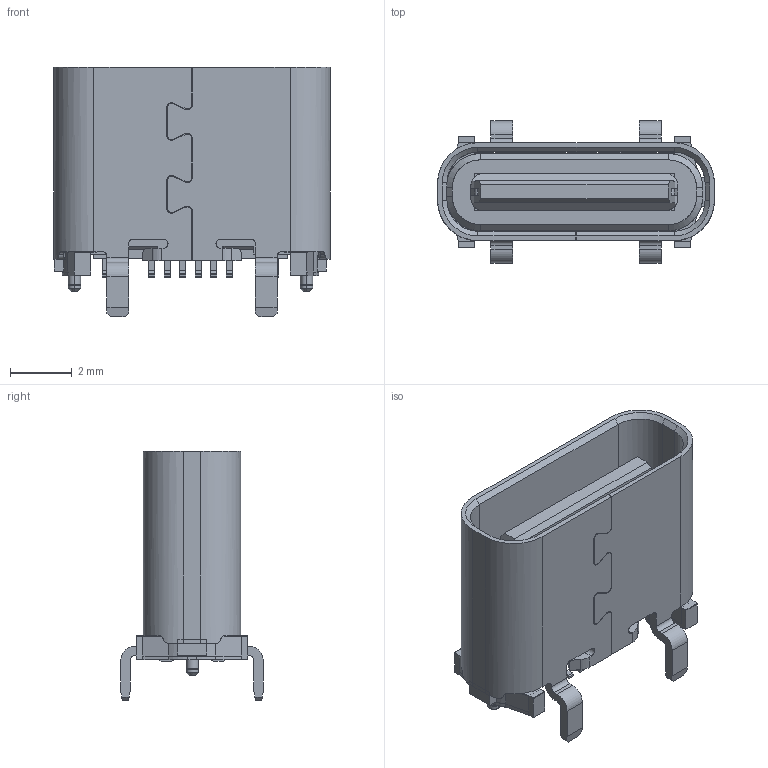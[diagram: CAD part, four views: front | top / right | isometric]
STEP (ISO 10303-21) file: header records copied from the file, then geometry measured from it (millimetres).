
FILE_DESCRIPTION((''),'2;1');
FILE_NAME('_TC_16P_6_5_0_95_ASM_ASM','2023-01-03T',('888'),(''),'PRO/ENGINEER BY PARAMETRIC TECHNOLOGY CORPORATION, 2010480','PRO/ENGINEER BY PARAMETRIC TECHNOLOGY CORPORATION, 2010480','');
FILE_SCHEMA(('CONFIG_CONTROL_DESIGN'));
Length unit declared in the file: millimetre
Products named in the file (33): PRT0060; ASM0031_ASM_ASM; ASM0030_ASM_ASM; PRT0061; ASM0032_ASM_ASM; ASM0029_ASM_ASM; PRT0062; PRT0063; PRT0064; PRT0065; PRT0066; PRT0067; PRT0068; PRT0069; ASM0034_ASM_ASM; PRT0070; ASM0033_ASM_ASM; PRT0023; PRT0024; PRT0025; PRT0026; PRT0027; PRT0028; PRT0029; PRT0030; TC_16P_6_5H_________________ASM_ASM; PRT0071; ASM0035_ASM_ASM; ASM0028_ASM_ASM; ASM0027_ASM_ASM; ASM0026_ASM_ASM; WAIKE1; _TC_16P_6_5_0_95_ASM_ASM
Assembly tree (32 placements, depth 8):
  _TC_16P_6_5_0_95_ASM_ASM
    ASM0026_ASM_ASM
      ASM0027_ASM_ASM
        ASM0028_ASM_ASM
          ASM0029_ASM_ASM
            ASM0030_ASM_ASM
              ASM0031_ASM_ASM
                PRT0060
            ASM0032_ASM_ASM
              PRT0061
          ASM0033_ASM_ASM
            ASM0034_ASM_ASM
              PRT0062
              PRT0063
              PRT0064
              PRT0065
              PRT0066
              PRT0067
              PRT0068
              PRT0069
            PRT0070
          ASM0035_ASM_ASM
            TC_16P_6_5H_________________ASM_ASM
              PRT0023
              PRT0024
              PRT0025
              PRT0026
              PRT0027
              PRT0028
              PRT0029
              PRT0030
            PRT0071
    WAIKE1
Bounding box: 8.94 x 4.6 x 8.05 mm (x, y, z)
Volume: 39.5 mm3; surface area: 724.6 mm2
Topology: 1 solids, 1482 shells, 1697 faces, 9239 edges, 9025 vertices
Faces by surface type: plane 1278, cylinder 383, cone 32, bspline 4
Entity records: 93788 total; most frequent: CARTESIAN_POINT 24158, DIRECTION 12948, ORIENTED_EDGE 9856, EDGE_CURVE 9239, VERTEX_POINT 9025, VECTOR 7746, LINE 7746, AXIS2_PLACEMENT_3D 2601
